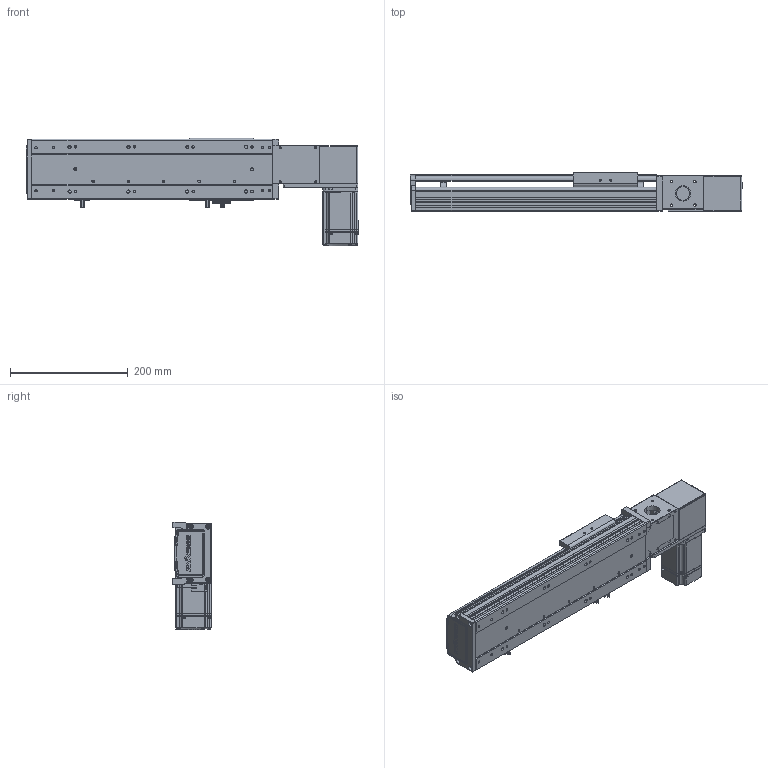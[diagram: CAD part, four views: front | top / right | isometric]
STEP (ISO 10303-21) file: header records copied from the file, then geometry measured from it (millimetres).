
FILE_DESCRIPTION (( 'STEP AP203' ), '1' );
FILE_NAME ('RY100-T-300-LK.SLDASM_200.step', '2024-04-25T05:36:31', ( '盈信电脑' ), ( '东莞市道滘镇水果街19号' ), 'SwSTEP 2.0', 'SolidWorks 2016', '' );
FILE_SCHEMA (( 'CONFIG_CONTROL_DESIGN' ));
Length unit declared in the file: millimetre
Products named in the file (13): RY100綴裔啣; RY100-T翋肮祭謫裔啣2; RY100-T肮祭謫翋盓傅釱; RY100-T-300-LK.SLDASM_200; 覜茼ん672; 滅袉蝶18-10; RY80-T肮祭謫俋欶; RY100俋离覜茼え; RY100-T-300-RK倰第奻裔_200; 1; RY100-T左右折电机安装板; RY100-T肮祭謫臏賑輸; RY100-T-300-RK倰第菁釱_200
Assembly tree (16 placements, depth 2):
  RY100-T-300-LK.SLDASM_200
    RY100-T-300-RK倰第菁釱_200
    RY100-T-300-RK倰第奻裔_200
    RY100-T肮祭謫臏賑輸
    RY100綴裔啣
    覜茼ん672  x3
    RY100俋离覜茼え
    RY100-T肮祭謫翋盓傅釱
    滅袉蝶18-10  x2
    RY100-T翋肮祭謫裔啣2  x2
    RY80-T肮祭謫俋欶
    RY100-T左右折电机安装板
    1
Bounding box: 564 x 66 x 182.5 mm (x, y, z)
Volume: 1336411.1 mm3; surface area: 503422.9 mm2
Topology: 16 solids, 16 shells, 2056 faces, 5700 edges, 3700 vertices
Faces by surface type: plane 1162, cylinder 691, cone 125, bspline 78
Entity records: 64696 total; most frequent: CARTESIAN_POINT 15553, ORIENTED_EDGE 10136, DIRECTION 9608, EDGE_CURVE 5068, VECTOR 3376, LINE 3376, VERTEX_POINT 3336, AXIS2_PLACEMENT_3D 3116
